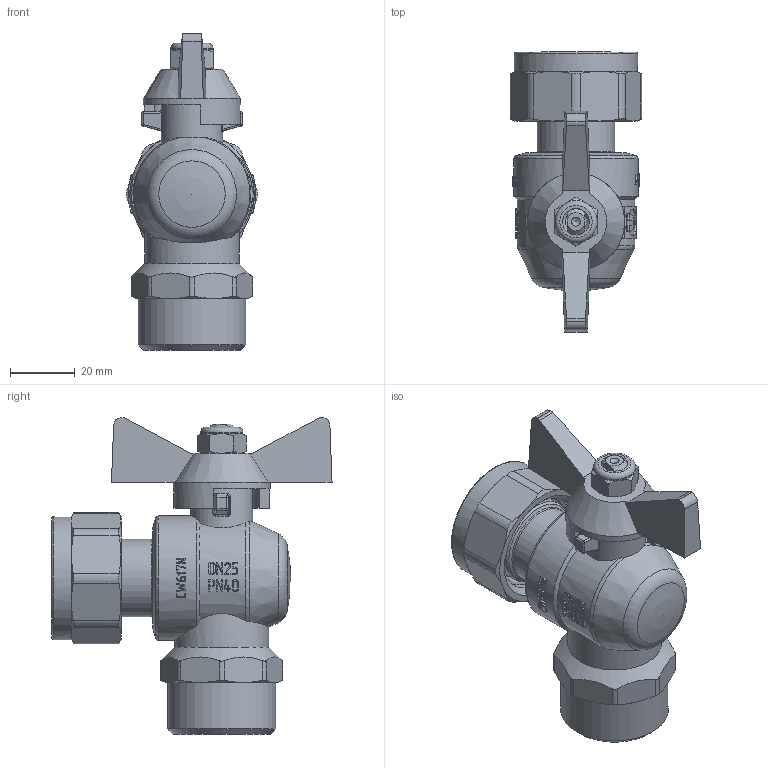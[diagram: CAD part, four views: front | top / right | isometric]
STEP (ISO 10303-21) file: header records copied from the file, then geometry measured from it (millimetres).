
FILE_DESCRIPTION(('STEP AP203'), '1');
FILE_NAME('VT.267.N.0606', '', ('UNSPECIFIED'), ('UNSPECIFIED'), 'C3D Converter', 'C3D Toolkit', '');
FILE_SCHEMA(('CONFIG_CONTROL_DESIGN'));
Length unit declared in the file: millimetre
Products named in the file (1): ВР.491816.035.000 СБ
Bounding box: 40.47 x 86.35 x 97.7 mm (x, y, z)
Volume: 102246.3 mm3; surface area: 24818.8 mm2
Topology: 3 solids, 3 shells, 780 faces, 2100 edges, 1360 vertices
Faces by surface type: plane 297, extrusion 296, cylinder 89, cone 58, bspline 18, torus 17, sphere 5
Full cylindrical faces by diameter (mm): 9.5 x1, 12.1 x1, 13 x1, 14 x1, 19 x1, 23.9 x1, 24 x1, 27.1 x1, 29 x1, 30 x1, 30.2 x1, 30.292 x1, 30.4 x1, 33.249 x1, 33.4 x1, 38 x1, 38.3 x1
Entity records: 36068 total; most frequent: CARTESIAN_POINT 18634, ORIENTED_EDGE 4080, DIRECTION 2605, EDGE_CURVE 2040, VERTEX_POINT 1355, B_SPLINE_CURVE_WITH_KNOTS 1092, VECTOR 1087, EDGE_LOOP 865
